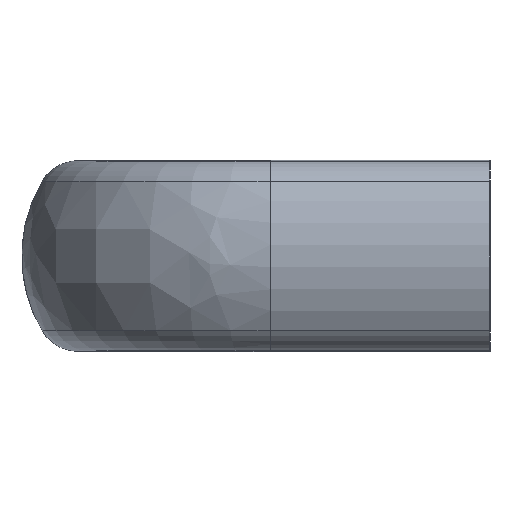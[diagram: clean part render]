
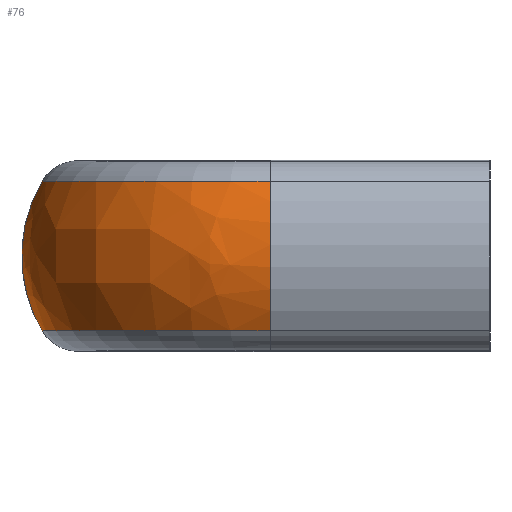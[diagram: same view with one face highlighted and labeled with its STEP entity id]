
A CAD part, left-side view. The second image highlights one B-rep face of the part: STEP entity #76.
In plain terms, the highlighted free-form (B-spline) face has degree [3, 3] with [4, 4] control points.
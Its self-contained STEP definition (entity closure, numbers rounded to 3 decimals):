
#76 = ADVANCED_FACE( '', ( #131 ), #132, .T. );
#131 = FACE_OUTER_BOUND( '', #243, .T. );
#132 = ( BOUNDED_SURFACE(  )B_SPLINE_SURFACE( 3, 3, ( ( #246, #247, #248, #249 ), ( #250, #251, #252, #253 ), ( #254, #255, #256, #257 ), ( #258, #259, #260, #261 ) ), .UNSPECIFIED., .F., .F., .F. )B_SPLINE_SURFACE_WITH_KNOTS( ( 4, 4 ), ( 4, 4 ), ( 1.571, 3.142 ), ( -0.533, 0.533 ), .UNSPECIFIED. )GEOMETRIC_REPRESENTATION_ITEM(  )RATIONAL_B_SPLINE_SURFACE( ( ( 1., 0.805, 0.805, 1. ), ( 0.907, 0.73, 0.73, 0.907 ), ( 0.907, 0.73, 0.73, 0.907 ), ( 1., 0.805, 0.805, 1. ) ) )REPRESENTATION_ITEM( '' )SURFACE(  ) );
#243 = EDGE_LOOP( '', ( #404, #405, #406, #407 ) );
#246 = CARTESIAN_POINT( '', ( -36.5, 46.852, 7.826 ) );
#247 = CARTESIAN_POINT( '', ( -50.472, 46.852, 7.826 ) );
#248 = CARTESIAN_POINT( '', ( -60.352, 36.972, 7.826 ) );
#249 = CARTESIAN_POINT( '', ( -60.352, 23., 7.826 ) );
#250 = CARTESIAN_POINT( '', ( -36.5, 49.775, 2.875 ) );
#251 = CARTESIAN_POINT( '', ( -52.185, 49.775, 2.875 ) );
#252 = CARTESIAN_POINT( '', ( -63.275, 38.685, 2.875 ) );
#253 = CARTESIAN_POINT( '', ( -63.275, 23., 2.875 ) );
#254 = CARTESIAN_POINT( '', ( -36.5, 49.775, -2.875 ) );
#255 = CARTESIAN_POINT( '', ( -52.185, 49.775, -2.875 ) );
#256 = CARTESIAN_POINT( '', ( -63.275, 38.685, -2.875 ) );
#257 = CARTESIAN_POINT( '', ( -63.275, 23., -2.875 ) );
#258 = CARTESIAN_POINT( '', ( -36.5, 46.852, -7.826 ) );
#259 = CARTESIAN_POINT( '', ( -50.472, 46.852, -7.826 ) );
#260 = CARTESIAN_POINT( '', ( -60.352, 36.972, -7.826 ) );
#261 = CARTESIAN_POINT( '', ( -60.352, 23., -7.826 ) );
#404 = ORIENTED_EDGE( '', *, *, #799, .T. );
#405 = ORIENTED_EDGE( '', *, *, #800, .F. );
#406 = ORIENTED_EDGE( '', *, *, #801, .F. );
#407 = ORIENTED_EDGE( '', *, *, #802, .T. );
#799 = EDGE_CURVE( '', #921, #925, #927, .T. );
#800 = EDGE_CURVE( '', #928, #925, #929, .T. );
#801 = EDGE_CURVE( '', #930, #928, #931, .T. );
#802 = EDGE_CURVE( '', #930, #921, #932, .T. );
#921 = VERTEX_POINT( '', #1118 );
#925 = VERTEX_POINT( '', #1127 );
#927 = CIRCLE( '', #1129, 23.852 );
#928 = VERTEX_POINT( '', #1130 );
#929 = CIRCLE( '', #1131, 15.391 );
#930 = VERTEX_POINT( '', #1132 );
#931 = CIRCLE( '', #1133, 23.852 );
#932 = B_SPLINE_CURVE_WITH_KNOTS( '', 3, ( #1134, #1135, #1136, #1137, #1138, #1139, #1140, #1141, #1142, #1143 ), .UNSPECIFIED., .F., .F., ( 4, 2, 2, 2, 4 ), ( 0., 0.25, 0.5, 0.75, 1. ), .UNSPECIFIED. );
#1118 = CARTESIAN_POINT( '', ( -36.5, 46.852, -7.833 ) );
#1127 = CARTESIAN_POINT( '', ( -60.352, 23., -7.826 ) );
#1129 = AXIS2_PLACEMENT_3D( '', #1398, #1399, #1400 );
#1130 = CARTESIAN_POINT( '', ( -60.352, 23., 7.826 ) );
#1131 = AXIS2_PLACEMENT_3D( '', #1401, #1402, #1403 );
#1132 = CARTESIAN_POINT( '', ( -36.5, 46.851, 7.834 ) );
#1133 = AXIS2_PLACEMENT_3D( '', #1404, #1405, #1406 );
#1134 = CARTESIAN_POINT( '', ( -36.5, 46.852, 7.826 ) );
#1135 = CARTESIAN_POINT( '', ( -36.5, 47.548, 6.648 ) );
#1136 = CARTESIAN_POINT( '', ( -36.5, 48.085, 5.376 ) );
#1137 = CARTESIAN_POINT( '', ( -36.5, 48.806, 2.736 ) );
#1138 = CARTESIAN_POINT( '', ( -36.5, 48.99, 1.368 ) );
#1139 = CARTESIAN_POINT( '', ( -36.5, 48.99, -1.368 ) );
#1140 = CARTESIAN_POINT( '', ( -36.5, 48.806, -2.736 ) );
#1141 = CARTESIAN_POINT( '', ( -36.5, 48.085, -5.376 ) );
#1142 = CARTESIAN_POINT( '', ( -36.5, 47.548, -6.648 ) );
#1143 = CARTESIAN_POINT( '', ( -36.5, 46.852, -7.826 ) );
#1398 = CARTESIAN_POINT( '', ( -36.5, 23., -7.826 ) );
#1399 = DIRECTION( '', ( 0., 0., 1. ) );
#1400 = DIRECTION( '', ( 1., 0., 0. ) );
#1401 = CARTESIAN_POINT( '', ( -47.099, 23., 0. ) );
#1402 = DIRECTION( '', ( 0., -1., 0. ) );
#1403 = DIRECTION( '', ( 0., 0., 1. ) );
#1404 = CARTESIAN_POINT( '', ( -36.5, 23., 7.826 ) );
#1405 = DIRECTION( '', ( 0., 0., 1. ) );
#1406 = DIRECTION( '', ( 1., 0., 0. ) );
